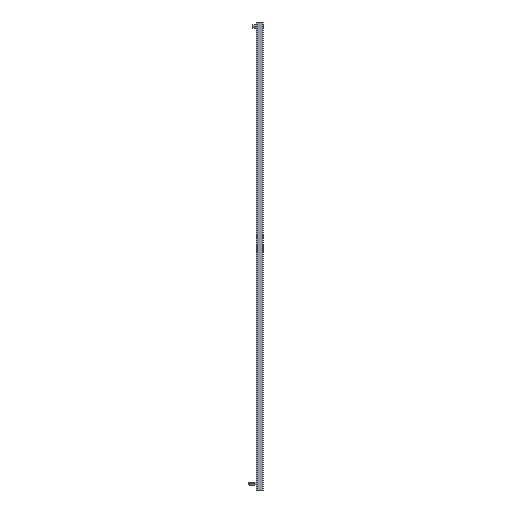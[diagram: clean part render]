
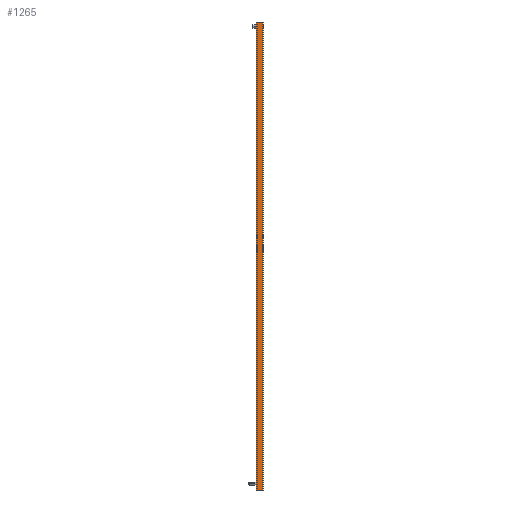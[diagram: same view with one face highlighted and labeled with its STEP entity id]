
A CAD part, left-side view. The second image highlights one B-rep face of the part: STEP entity #1265.
In plain terms, the highlighted planar face has unit normal (-1, 0, 0).
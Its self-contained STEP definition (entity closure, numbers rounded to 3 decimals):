
#26 = CARTESIAN_POINT ( 'NONE',  ( -8., 0., 879. ) ) ;
#214 = CARTESIAN_POINT ( 'NONE',  ( -8., 0., 879. ) ) ;
#262 = EDGE_CURVE ( 'NONE', #2264, #1461, #2954, .T. ) ;
#338 = CARTESIAN_POINT ( 'NONE',  ( -8., 12.5, 879. ) ) ;
#435 = ORIENTED_EDGE ( 'NONE', *, *, #262, .T. ) ;
#454 = DIRECTION ( 'NONE',  ( 0., -1., 0. ) ) ;
#489 = DIRECTION ( 'NONE',  ( -1., 0., 0. ) ) ;
#533 = CARTESIAN_POINT ( 'NONE',  ( -8., 12.5, 879. ) ) ;
#544 = ORIENTED_EDGE ( 'NONE', *, *, #1991, .T. ) ;
#572 = VERTEX_POINT ( 'NONE', #2437 ) ;
#601 = EDGE_CURVE ( 'NONE', #2576, #4359, #1117, .T. ) ;
#653 = CARTESIAN_POINT ( 'NONE',  ( -8., 0., 879. ) ) ;
#672 = VECTOR ( 'NONE', #2342, 1000. ) ;
#727 = VECTOR ( 'NONE', #1875, 1000. ) ;
#777 = CARTESIAN_POINT ( 'NONE',  ( -8., 0., 0. ) ) ;
#965 = ORIENTED_EDGE ( 'NONE', *, *, #601, .T. ) ;
#1117 = LINE ( 'NONE', #3837, #4282 ) ;
#1158 = ORIENTED_EDGE ( 'NONE', *, *, #3292, .T. ) ;
#1189 = CARTESIAN_POINT ( 'NONE',  ( -8., 3.2, 879. ) ) ;
#1234 = VECTOR ( 'NONE', #2935, 1000. ) ;
#1265 = ADVANCED_FACE ( 'NONE', ( #3329 ), #1944, .T. ) ;
#1429 = EDGE_CURVE ( 'NONE', #3171, #2928, #1916, .T. ) ;
#1461 = VERTEX_POINT ( 'NONE', #1189 ) ;
#1718 = LINE ( 'NONE', #653, #2582 ) ;
#1738 = CARTESIAN_POINT ( 'NONE',  ( -8., 9.3, 0. ) ) ;
#1789 = LINE ( 'NONE', #3193, #727 ) ;
#1875 = DIRECTION ( 'NONE',  ( 0., 0., 1. ) ) ;
#1916 = LINE ( 'NONE', #533, #1234 ) ;
#1944 = PLANE ( 'NONE',  #3616 ) ;
#1991 = EDGE_CURVE ( 'NONE', #572, #2264, #1789, .T. ) ;
#2028 = ORIENTED_EDGE ( 'NONE', *, *, #3486, .F. ) ;
#2032 = DIRECTION ( 'NONE',  ( 0., 1., 0. ) ) ;
#2059 = CARTESIAN_POINT ( 'NONE',  ( -8., 12.5, 879. ) ) ;
#2082 = DIRECTION ( 'NONE',  ( 0., 0., 1. ) ) ;
#2264 = VERTEX_POINT ( 'NONE', #26 ) ;
#2342 = DIRECTION ( 'NONE',  ( 0., 1., 0. ) ) ;
#2363 = EDGE_LOOP ( 'NONE', ( #2028, #965, #2680, #1158, #544, #435, #3656, #3248 ) ) ;
#2372 = CARTESIAN_POINT ( 'NONE',  ( -8., 0., 0. ) ) ;
#2427 = VERTEX_POINT ( 'NONE', #3240 ) ;
#2437 = CARTESIAN_POINT ( 'NONE',  ( -8., 0., 0. ) ) ;
#2565 = VECTOR ( 'NONE', #3464, 1000. ) ;
#2576 = VERTEX_POINT ( 'NONE', #3869 ) ;
#2582 = VECTOR ( 'NONE', #2032, 1000. ) ;
#2680 = ORIENTED_EDGE ( 'NONE', *, *, #3126, .T. ) ;
#2928 = VERTEX_POINT ( 'NONE', #3389 ) ;
#2935 = DIRECTION ( 'NONE',  ( 0., -1., 0. ) ) ;
#2954 = LINE ( 'NONE', #3028, #672 ) ;
#3028 = CARTESIAN_POINT ( 'NONE',  ( -8., 0., 879. ) ) ;
#3126 = EDGE_CURVE ( 'NONE', #4359, #2427, #4476, .T. ) ;
#3171 = VERTEX_POINT ( 'NONE', #2059 ) ;
#3193 = CARTESIAN_POINT ( 'NONE',  ( -8., 0., 879. ) ) ;
#3240 = CARTESIAN_POINT ( 'NONE',  ( -8., 3.2, 0. ) ) ;
#3248 = ORIENTED_EDGE ( 'NONE', *, *, #1429, .F. ) ;
#3292 = EDGE_CURVE ( 'NONE', #2427, #572, #3901, .T. ) ;
#3329 = FACE_OUTER_BOUND ( 'NONE', #2363, .T. ) ;
#3389 = CARTESIAN_POINT ( 'NONE',  ( -8., 9.3, 879. ) ) ;
#3464 = DIRECTION ( 'NONE',  ( 0., -1., 0. ) ) ;
#3486 = EDGE_CURVE ( 'NONE', #2576, #3171, #3763, .T. ) ;
#3600 = DIRECTION ( 'NONE',  ( 0., 0., 1. ) ) ;
#3616 = AXIS2_PLACEMENT_3D ( 'NONE', #214, #489, #3600 ) ;
#3656 = ORIENTED_EDGE ( 'NONE', *, *, #4303, .T. ) ;
#3763 = LINE ( 'NONE', #338, #4083 ) ;
#3819 = DIRECTION ( 'NONE',  ( 0., -1., 0. ) ) ;
#3837 = CARTESIAN_POINT ( 'NONE',  ( -8., 0., 0. ) ) ;
#3857 = VECTOR ( 'NONE', #454, 1000. ) ;
#3869 = CARTESIAN_POINT ( 'NONE',  ( -8., 12.5, 0. ) ) ;
#3901 = LINE ( 'NONE', #777, #3857 ) ;
#4083 = VECTOR ( 'NONE', #2082, 1000. ) ;
#4282 = VECTOR ( 'NONE', #3819, 1000. ) ;
#4303 = EDGE_CURVE ( 'NONE', #1461, #2928, #1718, .T. ) ;
#4359 = VERTEX_POINT ( 'NONE', #1738 ) ;
#4476 = LINE ( 'NONE', #2372, #2565 ) ;
